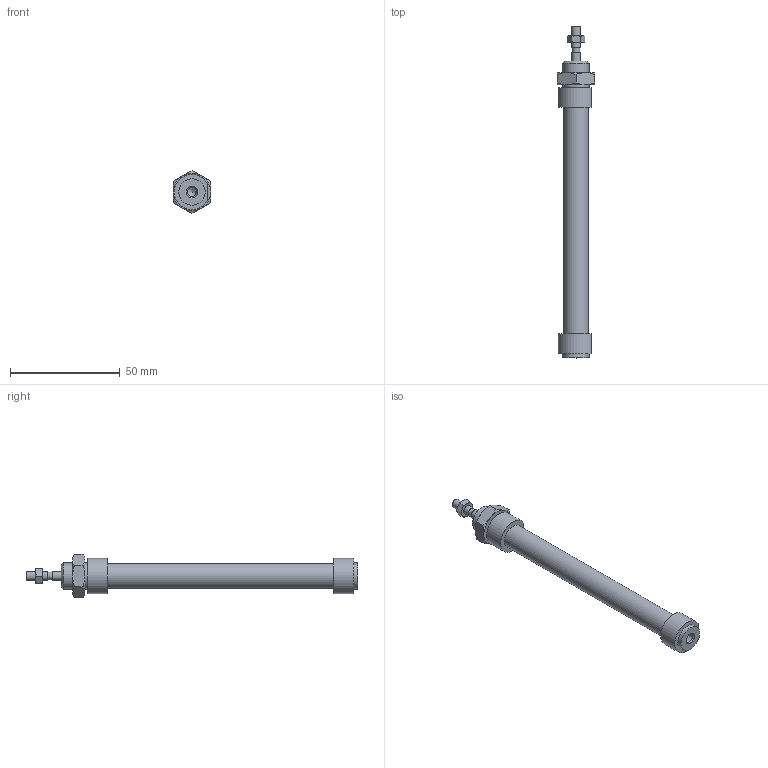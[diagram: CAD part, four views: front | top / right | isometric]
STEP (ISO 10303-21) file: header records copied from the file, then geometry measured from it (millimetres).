
FILE_DESCRIPTION((''),'2;1');
FILE_NAME('I:\Area Tecnica\Disegni\VARIE-3D\Componenti\1280\1281_##_####_#\1281_10_0075.iam.stp','2009-06-04T09:37:34',(''),(''),'Autodesk Inventor 2010','Autodesk Inventor 2010','');
FILE_SCHEMA(('AUTOMOTIVE_DESIGN { 1 0 10303 214 1 1 1 1 }'));
Length unit declared in the file: millimetre
Products named in the file (5): 1281_10_0075; C1281_10_75; S1280_10_75; 1200_10_05; 1200_10_06
Assembly tree (4 placements, depth 2):
  1281_10_0075
    C1281_10_75
    S1280_10_75
    1200_10_05
    1200_10_06
Bounding box: 17 x 151 x 19.63 mm (x, y, z)
Volume: 16155.4 mm3; surface area: 9374.7 mm2
Topology: 4 solids, 4 shells, 79 faces, 165 edges, 100 vertices
Faces by surface type: plane 29, cone 26, bspline 15, cylinder 9
Full cylindrical faces by diameter (mm): 3.5 x1, 4 x3, 11.2 x1, 12 x2
Entity records: 2316 total; most frequent: CARTESIAN_POINT 655, DIRECTION 294, ORIENTED_EDGE 274, EDGE_CURVE 137, AXIS2_PLACEMENT_3D 135, EDGE_LOOP 114, VERTEX_POINT 93, STYLED_ITEM 83
